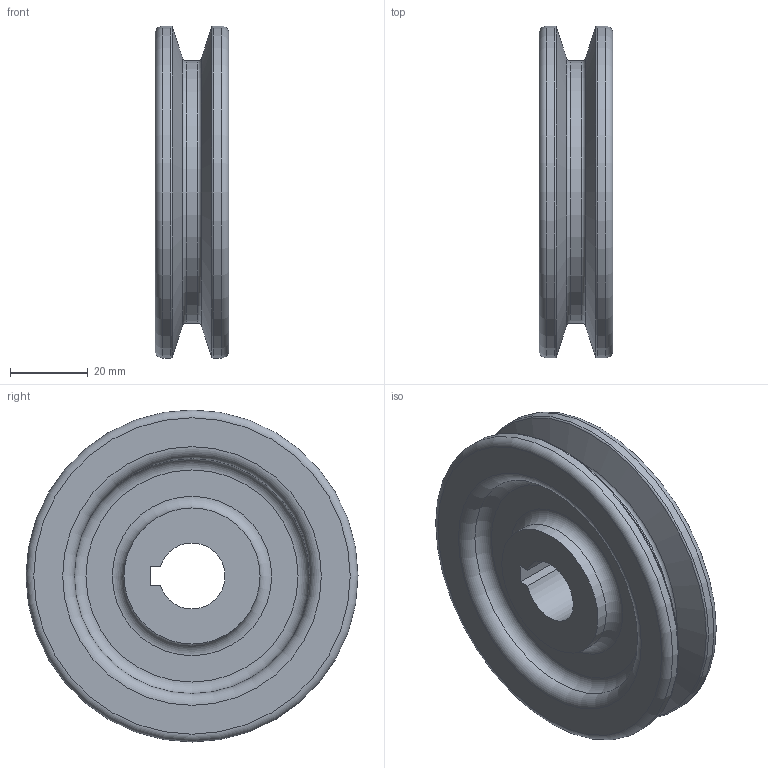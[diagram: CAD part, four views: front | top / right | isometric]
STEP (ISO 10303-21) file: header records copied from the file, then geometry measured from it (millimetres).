
FILE_DESCRIPTION(/* description */ (''),/* implementation_level */ '2;1');
FILE_NAME(/* name */ 'D:\381221E1001\381221E1001-v벨트풀리.stp',/* time_stamp */ '2018-12-28T15:57:17+09:00',/* author */ ('hi'),/* organization */ (''),/* preprocessor_version */ 'ST-DEVELOPER v15.2',/* originating_system */ 'Autodesk Inventor 2014',/* authorisation */ '');
FILE_SCHEMA (('AUTOMOTIVE_DESIGN { 1 0 10303 214 3 1 1 }'));
Length unit declared in the file: millimetre
Products named in the file (1): 3D
Bounding box: 19 x 85.4 x 85.4 mm (x, y, z)
Volume: 65075.4 mm3; surface area: 21659.5 mm2
Topology: 1 solids, 1 shells, 29 faces, 55 edges, 32 vertices
Faces by surface type: torus 12, plane 9, cylinder 6, cone 2
Full cylindrical faces by diameter (mm): 35 x2, 67.4 x1, 85.4 x2
Entity records: 653 total; most frequent: DIRECTION 122, CARTESIAN_POINT 98, ORIENTED_EDGE 72, AXIS2_PLACEMENT_3D 56, EDGE_LOOP 54, EDGE_CURVE 36, VERTEX_POINT 32, FACE_BOUND 29
